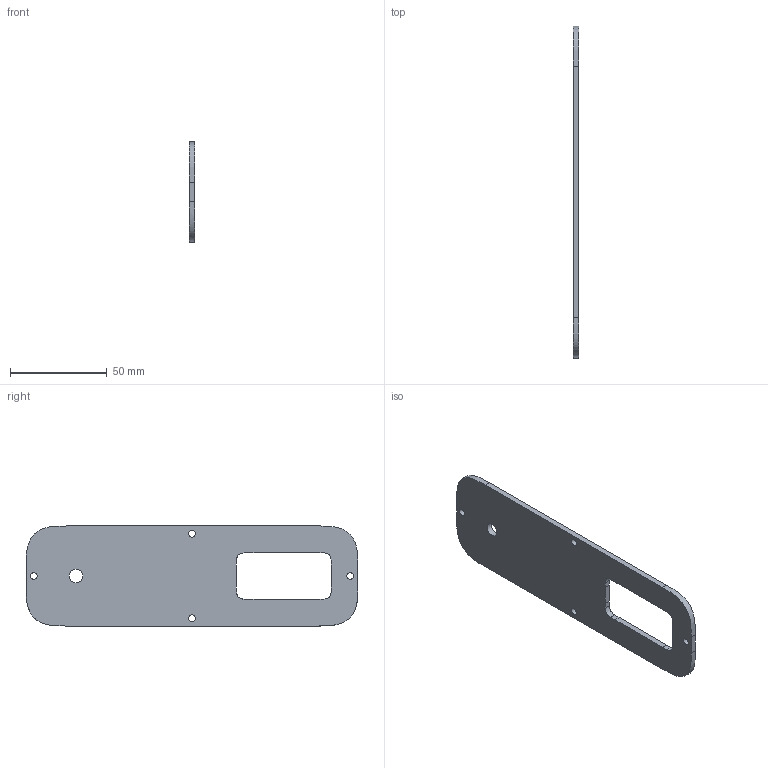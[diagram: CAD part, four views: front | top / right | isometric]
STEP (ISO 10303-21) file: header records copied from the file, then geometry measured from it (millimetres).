
FILE_DESCRIPTION(/* description */ (''),/* implementation_level */ '2;1');
FILE_NAME(/* name */ 'FRONT PLATE .step',/* time_stamp */ '2024-02-28T16:17:55Z',/* author */ (''),/* organization */ (''),/* preprocessor_version */ 'ST-DEVELOPER v20',/* originating_system */ 'Autodesk Translation Framework v12.20.1.177',/* authorisation */ '');
FILE_SCHEMA (('AUTOMOTIVE_DESIGN { 1 0 10303 214 3 1 1 }'));
Length unit declared in the file: millimetre
Products named in the file (1): FRONT PLATE (1)
Bounding box: 3 x 171.8 x 51.8 mm (x, y, z)
Volume: 22259.9 mm3; surface area: 16790.9 mm2
Topology: 1 solids, 1 shells, 31 faces, 87 edges, 58 vertices
Faces by surface type: bspline 16, plane 10, cylinder 5
Full cylindrical faces by diameter (mm): 3.5 x4, 7 x1
Entity records: 2039 total; most frequent: CARTESIAN_POINT 1289, ORIENTED_EDGE 174, DIRECTION 89, EDGE_CURVE 87, VERTEX_POINT 58, EDGE_LOOP 43, B_SPLINE_CURVE_WITH_KNOTS 40, LINE 37
